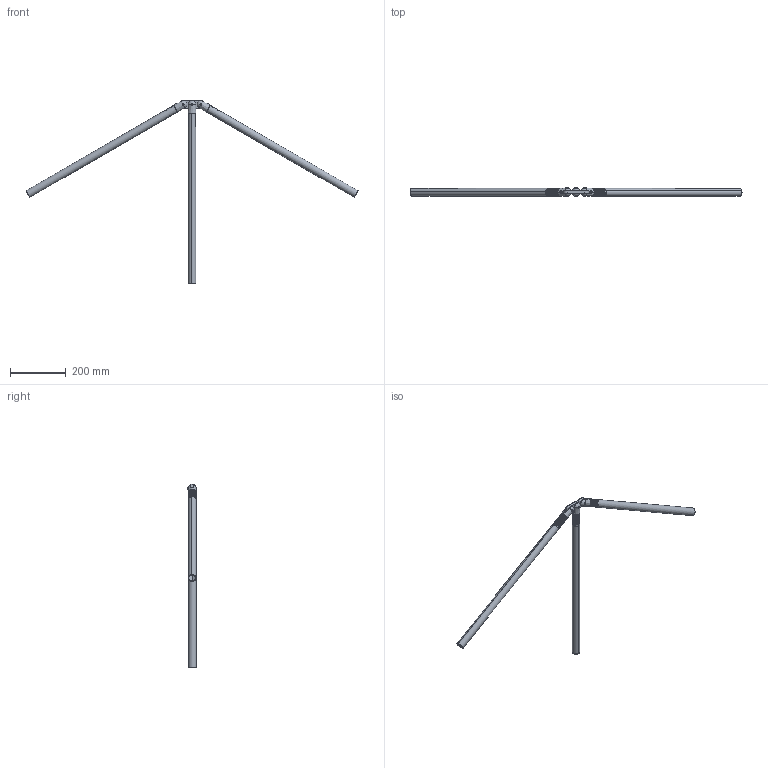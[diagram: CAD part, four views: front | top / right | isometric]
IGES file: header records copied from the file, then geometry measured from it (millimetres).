
Start section: SolidWorks IGES file using analytic representation for surfaces
Global section: file name: \\SERVER3\Design\_NEWDE~1\_DESIG~1\AAI\MODULA~1\SOLIDW~1\DEMONS~1\25DBF2~1.ASS\MODULA~1\83079~1.USE\USEOFL~2\Triple Link Connector to Three Female Clevis Connectors Connection.IGS; native system: SolidWorks 2013; preprocessor: SolidWorks 2013; author: tbraun; date: 130819.122226; units: inch
Bounding box: 1186.57 x 30.47 x 654.77 mm (x, y, z)
Surface area: 356755.1 mm2 (no closed solid volume)
Topology: 0 solids, 0 shells, 1301 faces, 17259 edges, 17253 vertices
Faces by surface type: revolution 898, bspline 403
